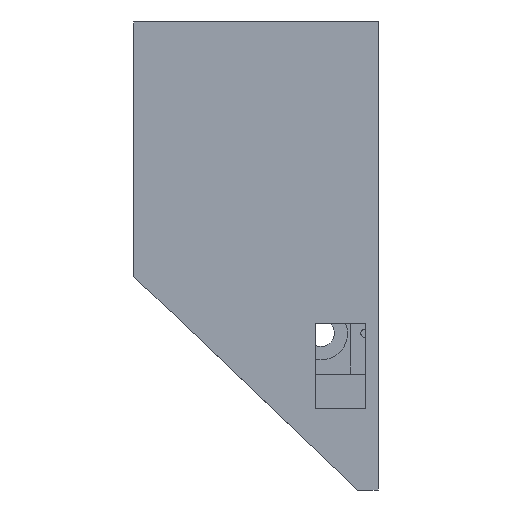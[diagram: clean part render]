
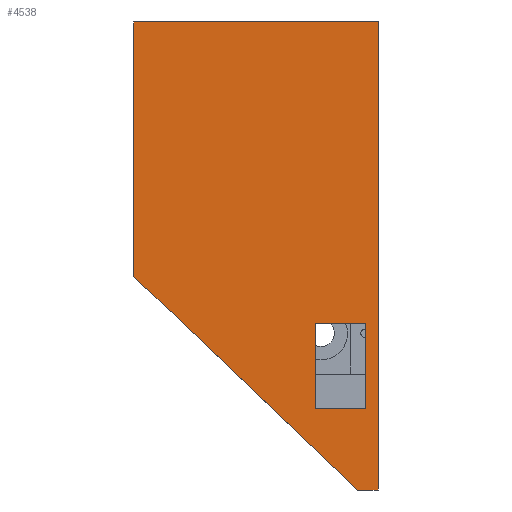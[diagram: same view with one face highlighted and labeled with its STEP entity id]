
A CAD part, left-side view. The second image highlights one B-rep face of the part: STEP entity #4538.
In plain terms, the highlighted planar face has unit normal (-1, 0, 0).
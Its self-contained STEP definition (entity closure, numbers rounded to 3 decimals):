
#15 = CARTESIAN_POINT ( 'NONE',  ( 0., 3., -74. ) ) ;
#138 = VERTEX_POINT ( 'NONE', #2251 ) ;
#200 = CARTESIAN_POINT ( 'NONE',  ( 0., 60., 0. ) ) ;
#206 = VERTEX_POINT ( 'NONE', #3862 ) ;
#337 = VERTEX_POINT ( 'NONE', #5282 ) ;
#371 = ORIENTED_EDGE ( 'NONE', *, *, #2120, .T. ) ;
#435 = EDGE_CURVE ( 'NONE', #206, #337, #4960, .T. ) ;
#698 = ORIENTED_EDGE ( 'NONE', *, *, #4909, .T. ) ;
#724 = EDGE_CURVE ( 'NONE', #3856, #1125, #4807, .T. ) ;
#744 = VERTEX_POINT ( 'NONE', #4181 ) ;
#748 = VERTEX_POINT ( 'NONE', #6455 ) ;
#916 = DIRECTION ( 'NONE',  ( 0., 1., 0. ) ) ;
#945 = CARTESIAN_POINT ( 'NONE',  ( 0., 0., 0. ) ) ;
#1125 = VERTEX_POINT ( 'NONE', #4651 ) ;
#1188 = ORIENTED_EDGE ( 'NONE', *, *, #724, .F. ) ;
#1252 = VECTOR ( 'NONE', #6705, 1000. ) ;
#1507 = LINE ( 'NONE', #1931, #5777 ) ;
#1551 = ORIENTED_EDGE ( 'NONE', *, *, #3419, .T. ) ;
#1757 = LINE ( 'NONE', #7348, #3022 ) ;
#1864 = DIRECTION ( 'NONE',  ( 0., 0., 1. ) ) ;
#1931 = CARTESIAN_POINT ( 'NONE',  ( 0., 5., -115. ) ) ;
#2120 = EDGE_CURVE ( 'NONE', #2537, #748, #6419, .T. ) ;
#2251 = CARTESIAN_POINT ( 'NONE',  ( 0., 5., -115. ) ) ;
#2340 = CARTESIAN_POINT ( 'NONE',  ( 0., 15.4, -74. ) ) ;
#2497 = PLANE ( 'NONE',  #3257 ) ;
#2523 = VECTOR ( 'NONE', #4071, 1000. ) ;
#2537 = VERTEX_POINT ( 'NONE', #5210 ) ;
#2625 = CARTESIAN_POINT ( 'NONE',  ( 0., 60., -62.55 ) ) ;
#2731 = ORIENTED_EDGE ( 'NONE', *, *, #6682, .F. ) ;
#2983 = VECTOR ( 'NONE', #1864, 1000. ) ;
#3022 = VECTOR ( 'NONE', #5037, 1000. ) ;
#3246 = ORIENTED_EDGE ( 'NONE', *, *, #5989, .F. ) ;
#3257 = AXIS2_PLACEMENT_3D ( 'NONE', #7041, #6492, #5929 ) ;
#3349 = CARTESIAN_POINT ( 'NONE',  ( 0., 60., -62.55 ) ) ;
#3419 = EDGE_CURVE ( 'NONE', #748, #4308, #4481, .T. ) ;
#3508 = EDGE_LOOP ( 'NONE', ( #371, #1551, #4883, #698 ) ) ;
#3856 = VERTEX_POINT ( 'NONE', #2625 ) ;
#3862 = CARTESIAN_POINT ( 'NONE',  ( 0., 0., 0. ) ) ;
#4014 = EDGE_CURVE ( 'NONE', #4308, #744, #1757, .T. ) ;
#4023 = LINE ( 'NONE', #2340, #5290 ) ;
#4071 = DIRECTION ( 'NONE',  ( 0., -1., 0. ) ) ;
#4180 = FACE_BOUND ( 'NONE', #3508, .T. ) ;
#4181 = CARTESIAN_POINT ( 'NONE',  ( 0., 15.4, -95. ) ) ;
#4308 = VERTEX_POINT ( 'NONE', #6301 ) ;
#4321 = VECTOR ( 'NONE', #5000, 1000. ) ;
#4336 = CARTESIAN_POINT ( 'NONE',  ( 0., 0., -115. ) ) ;
#4425 = LINE ( 'NONE', #3349, #1252 ) ;
#4481 = LINE ( 'NONE', #15, #4321 ) ;
#4538 = ADVANCED_FACE ( 'NONE', ( #4180, #5895 ), #2497, .T. ) ;
#4613 = DIRECTION ( 'NONE',  ( 0., 0., 1. ) ) ;
#4651 = CARTESIAN_POINT ( 'NONE',  ( 0., 60., 0. ) ) ;
#4807 = LINE ( 'NONE', #200, #2983 ) ;
#4883 = ORIENTED_EDGE ( 'NONE', *, *, #4014, .T. ) ;
#4909 = EDGE_CURVE ( 'NONE', #744, #2537, #4023, .T. ) ;
#4960 = LINE ( 'NONE', #4336, #6184 ) ;
#5000 = DIRECTION ( 'NONE',  ( 0., 0., -1. ) ) ;
#5027 = DIRECTION ( 'NONE',  ( 0., 0., -1. ) ) ;
#5037 = DIRECTION ( 'NONE',  ( 0., 1., 0. ) ) ;
#5210 = CARTESIAN_POINT ( 'NONE',  ( 0., 15.4, -74. ) ) ;
#5282 = CARTESIAN_POINT ( 'NONE',  ( 0., 0., -115. ) ) ;
#5290 = VECTOR ( 'NONE', #4613, 1000. ) ;
#5744 = CARTESIAN_POINT ( 'NONE',  ( 0., 15.4, -74. ) ) ;
#5745 = EDGE_LOOP ( 'NONE', ( #6865, #2731, #1188, #3246, #6524 ) ) ;
#5777 = VECTOR ( 'NONE', #916, 1000. ) ;
#5895 = FACE_OUTER_BOUND ( 'NONE', #5745, .T. ) ;
#5929 = DIRECTION ( 'NONE',  ( 0., 0., 1. ) ) ;
#5989 = EDGE_CURVE ( 'NONE', #138, #3856, #4425, .T. ) ;
#6184 = VECTOR ( 'NONE', #5027, 1000. ) ;
#6301 = CARTESIAN_POINT ( 'NONE',  ( 0., 3., -95. ) ) ;
#6419 = LINE ( 'NONE', #5744, #2523 ) ;
#6455 = CARTESIAN_POINT ( 'NONE',  ( 0., 3., -74. ) ) ;
#6476 = LINE ( 'NONE', #945, #6486 ) ;
#6486 = VECTOR ( 'NONE', #6549, 1000. ) ;
#6492 = DIRECTION ( 'NONE',  ( -1., 0., 0. ) ) ;
#6524 = ORIENTED_EDGE ( 'NONE', *, *, #7279, .F. ) ;
#6549 = DIRECTION ( 'NONE',  ( 0., -1., 0. ) ) ;
#6682 = EDGE_CURVE ( 'NONE', #1125, #206, #6476, .T. ) ;
#6705 = DIRECTION ( 'NONE',  ( 0., 0.724, 0.69 ) ) ;
#6865 = ORIENTED_EDGE ( 'NONE', *, *, #435, .F. ) ;
#7041 = CARTESIAN_POINT ( 'NONE',  ( 0., 0., 0. ) ) ;
#7279 = EDGE_CURVE ( 'NONE', #337, #138, #1507, .T. ) ;
#7348 = CARTESIAN_POINT ( 'NONE',  ( 0., 15.4, -95. ) ) ;
